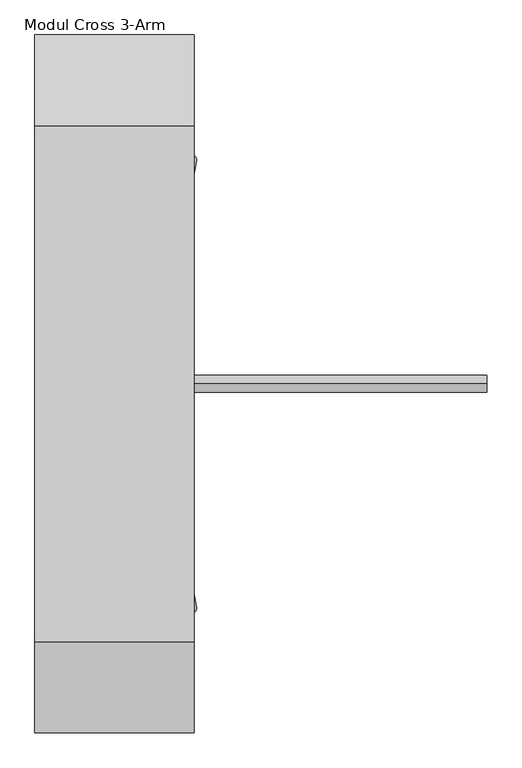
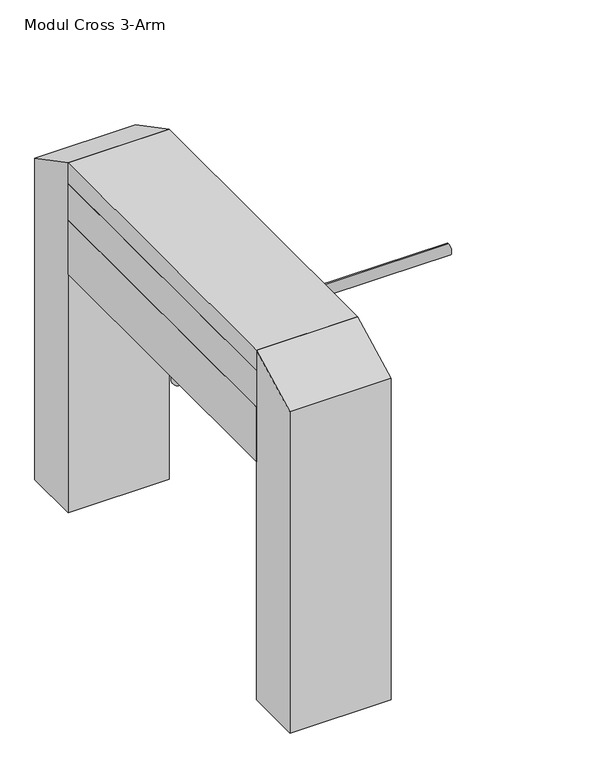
"""IFC4 building model written with IfcOpenShell, lengths in millimetres: proxy geometry, Gotschlich_Турникет-трипод_Тумбовый_Modul_Cross _R18 : Modul Cross 3-Arm."""

from ifc_helpers import new_model, si_unit, point, frame, origin, origin_2d, place, context, project, spatial, polyline, circle_curve, trimmed, segment, composite_curve, outline, extrude, source, transform, mapped, element, save
from ifc_brep_helpers import plane_surface, cylinder_surface, revolved_surface, spline_curve, advanced_brep


def modul_cross_3_arm_643bd08d(model_context):
    return source(origin(), model_context, "Body", "SolidModel", [
        extrude(outline(composite_curve([segment(trimmed(circle_curve(origin_2d(), 15.0), [point((0.0, -15.0))], [point((0.0, 14.9999999))], False, "CARTESIAN"), True, "CONTINUOUS"), segment(trimmed(circle_curve(origin_2d(), 15.0), [point((0.0, 14.9999999))], [point((0.0, -15.0))], False, "CARTESIAN"), True, "CONTINUOUS")], self_intersect=False)), frame((128.7950093, 394.9814921, 330.3534641), z_axis=(-0.11839890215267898, -0.663413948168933, 0.7388258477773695), x_axis=(0.6644414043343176, 0.500000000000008, 0.5554436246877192)), (0.0, 0.0, 1.0), 565.0),
        extrude(outline(composite_curve([segment(trimmed(circle_curve(origin_2d(), 15.0), [point((0.0, -15.0))], [point((0.0, 15.0))], False, "CARTESIAN"), True, "CONTINUOUS"), segment(trimmed(circle_curve(origin_2d(), 15.0), [point((0.0, 15.0))], [point((0.0, -15.0))], False, "CARTESIAN"), True, "CONTINUOUS")], self_intersect=False)), frame((653.679124, 0.0, 769.1333674), z_axis=(-0.999998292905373, 0.0, 0.0018477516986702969), x_axis=(0.0, -1.0, 0.0)), (0.0, 0.0, 1.0), 565.0),
        extrude(outline(composite_curve([segment(trimmed(circle_curve(origin_2d(), 15.0), [point((0.0, -14.9999999))], [point((0.0, 15.0))], False, "CARTESIAN"), True, "CONTINUOUS"), segment(trimmed(circle_curve(origin_2d(), 15.0), [point((0.0, 15.0))], [point((0.0, -14.9999999))], False, "CARTESIAN"), True, "CONTINUOUS")], self_intersect=False)), frame((128.7950093, -394.9814921, 330.3534641), z_axis=(-0.11839890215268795, 0.6634139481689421, 0.7388258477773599), x_axis=(0.6644414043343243, -0.499999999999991, 0.5554436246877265)), (0.0, 0.0, 1.0), 565.0),
        advanced_brep(
        [(104.9682219, 0.0, 783.7935062), (36.6846765, 0.0, 726.7114826), (14.8747204, 0.0, 752.8013272), (83.1582658, 0.0, 809.8833509), (103.2381184, 0.0, 753.5251033), (66.7803308, 0.0, 723.0480055), (94.5538378, 0.0, 726.8689489), (49.0164931, 0.0, 781.342339)],
        [
            (0, 1, circle_curve(frame((70.8264492, 0.0, 755.2524944), z_axis=(-0.6413710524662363, 0.0, 0.7672308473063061), x_axis=(-0.7672308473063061, 0.0, -0.6413710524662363)), 44.5)),
            (1, 2),
            (2, 3, circle_curve(frame((49.0164931, 0.0, 781.342339), z_axis=(0.6413710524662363, 0.0, -0.7672308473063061), x_axis=(-0.7672308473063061, 0.0, -0.6413710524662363)), 44.5)),
            (3, 0),
            (1, 0, circle_curve(frame((70.8264492, 0.0, 755.2524944), z_axis=(-0.6413710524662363, 0.0, 0.7672308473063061), x_axis=(-0.7672308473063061, 0.0, -0.6413710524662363)), 44.5)),
            (3, 2, circle_curve(frame((49.0164931, 0.0, 781.342339), z_axis=(0.6413710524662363, 0.0, -0.7672308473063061), x_axis=(-0.7672308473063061, 0.0, -0.6413710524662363)), 44.5)),
            (4, 5, circle_curve(frame((85.0092246, 0.0, 738.2865544), z_axis=(-0.6413710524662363, 0.0, 0.7672308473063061), x_axis=(-0.7672308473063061, 0.0, -0.6413710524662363)), 23.7593338)),
            (5, 1),
            (0, 4),
            (5, 4, circle_curve(frame((85.0092246, 0.0, 738.2865544), z_axis=(-0.6413710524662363, 0.0, 0.7672308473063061), x_axis=(-0.7672308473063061, 0.0, -0.6413710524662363)), 23.7593338)),
            (6, 5, spline_curve(3, [(94.5538378, 0.0, 726.8689489), (89.254880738, 0.0, 722.439255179), (79.997045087, 0.0, 721.165607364), (66.7803308, 0.0, 723.0480055)], [4, 4], [0.0, 0.049844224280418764])),
            (4, 6, spline_curve(3, [(103.2381184, 0.0, 753.5251033), (102.747555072, 0.0, 740.184027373), (99.852794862, 0.0, 731.298642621), (94.5538378, 0.0, 726.8689489)], [4, 4], [0.0, 0.049844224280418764])),
            (2, 7),
            (7, 3),
        ],
        [
            cylinder_surface(frame((109.9467431, 0.0, 708.4554085), z_axis=(0.6413710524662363, 0.0, -0.7672308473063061), x_axis=(-0.7672308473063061, 0.0, -0.6413710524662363)), 44.5),
            revolved_surface(polyline([(36.6846765, 0.0, 726.7114826), (66.7803308, 0.0, 723.0480055)]), (109.9467431, 0.0, 708.4554085), (0.6413710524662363, 0.0, -0.7672308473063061)),
            revolved_surface(spline_curve(3, [(66.7803308, 0.0, 723.0480055), (79.997045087, 0.0, 721.165607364), (89.254880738, 0.0, 722.439255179), (94.5538378, 0.0, 726.8689489)], [4, 4], [0.0, 0.049844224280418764]), (109.9467431, 0.0, 708.4554085), (0.6413710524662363, 0.0, -0.7672308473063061)),
            plane_surface(frame((49.0164931, 0.0, 781.342339), z_axis=(-0.6413710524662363, 0.0, 0.7672308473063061), x_axis=(-0.7672308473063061, 0.0, -0.6413710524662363))),
        ],
        [
            (0, [[1, 2, 3, 4]]),
            (0, [[5, -4, 6, -2]]),
            (1, [[7, 8, -1, 9]]),
            (1, [[10, -9, -5, -8]]),
            (2, [[11, -7, 12]]),
            (2, [[-12, -10, -11]]),
            (3, [[-3, 13, 14]]),
            (3, [[-6, -14, -13]]),
        ],
    ),
        extrude(outline(polyline([(857.4005264, 140.0), (857.4005264, -140.0), (698.0, -140.0), (698.0, -50.6805748), (857.4005264, 140.0)])), frame((0.0, -452.5, 0.0), z_axis=(0.0, 1.0, 0.0), x_axis=(0.0, 0.0, 1.0)), (0.0, 0.0, 1.0), 905.0),
        extrude(outline(polyline([(-140.0, -452.5), (-140.0, 452.5), (140.0, 452.5), (140.0, -452.5), (-140.0, -452.5)])), frame((0.0, 0.0, 857.4005264), z_axis=(0.0, 0.0, 1.0), x_axis=(1.0, 0.0, 0.0)), (0.0, 0.0, 1.0), 107.0994736),
        extrude(outline(polyline([(-140.0, -452.5), (-140.0, 452.5), (140.0, 452.5), (140.0, -452.5), (-140.0, -452.5)])), frame((0.0, 0.0, 964.5), z_axis=(0.0, 0.0, 1.0), x_axis=(1.0, 0.0, 0.0)), (0.0, 0.0, 1.0), 60.5),
        extrude(outline(polyline([(-612.5, 941.6990828), (-452.5, 1025.0), (-452.5, 0.0), (-612.5, 0.0), (-612.5, 941.6990828)])), frame((-140.0, 0.0, 0.0), z_axis=(1.0, 0.0, 0.0), x_axis=(0.0, 1.0, 0.0)), (0.0, 0.0, 1.0), 280.0),
        extrude(outline(polyline([(612.5, 941.6990828), (612.5, 0.0), (452.5, 0.0), (452.5, 1025.0), (612.5, 941.6990828)])), frame((-140.0, 0.0, 0.0), z_axis=(1.0, 0.0, 0.0), x_axis=(0.0, 1.0, 0.0)), (0.0, 0.0, 1.0), 280.0),
    ])


if __name__ == "__main__":
    model = new_model("IFC4")
    model_context = context("Model", 3, world=origin())
    ifc_project = project(units=[si_unit("LENGTHUNIT", "METRE", prefix="MILLI")], contexts=[model_context])
    site = spatial("IfcSite", under=ifc_project)
    building = spatial("IfcBuilding", under=site)
    placement = place(None, origin())
    modul_cross_3_arm_shape = modul_cross_3_arm_643bd08d(model_context)
    element("IfcBuildingElementProxy", 1, Name="Gotschlich_Турникет-трипод_Тумбовый_Modul_Cross _R18 : Modul Cross 3-Arm", ObjectType="Gotschlich_Турникет-трипод_Тумбовый_Modul_Cross _R18 : Modul Cross 3-Arm", at=placement, inside=building, context=model_context, shape_type="MappedRepresentation", body=[
        mapped(modul_cross_3_arm_shape, transform((0.0, 0.0, 0.0), x_axis=(1.0, 0.0, 0.0), y_axis=(0.0, 1.0, 0.0), z_axis=(0.0, 0.0, 1.0))),
    ])
    save(model, "model.ifc")
